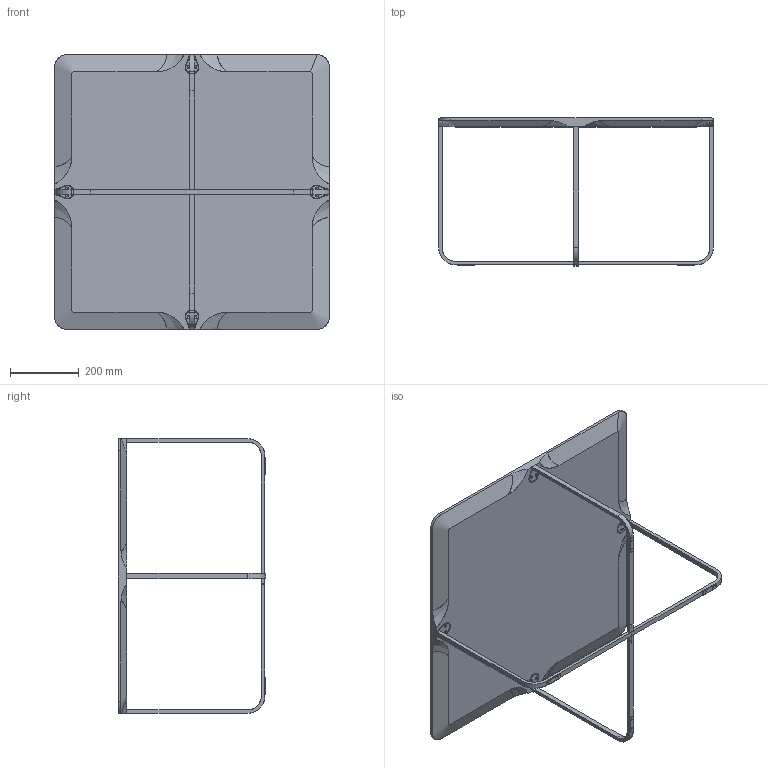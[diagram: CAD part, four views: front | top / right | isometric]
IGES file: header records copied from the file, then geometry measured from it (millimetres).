
Start section: SolidWorks IGES file using analytic representation for surfaces
Global section: file name: C:\Users\Kentie3D\Projecten\2013\1319 Montis verkoop info\Flint\3D\Flint tafel 0800-430 vierkant.IGS; native system: SolidWorks 2013; preprocessor: SolidWorks 2013; author: Kentie3D; date: 131212.154610; units: millimetre
Bounding box: 800 x 430 x 800 mm (x, y, z)
Surface area: 1497065.3 mm2 (no closed solid volume)
Topology: 0 solids, 0 shells, 384 faces, 5685 edges, 5661 vertices
Faces by surface type: revolution 219, bspline 165
